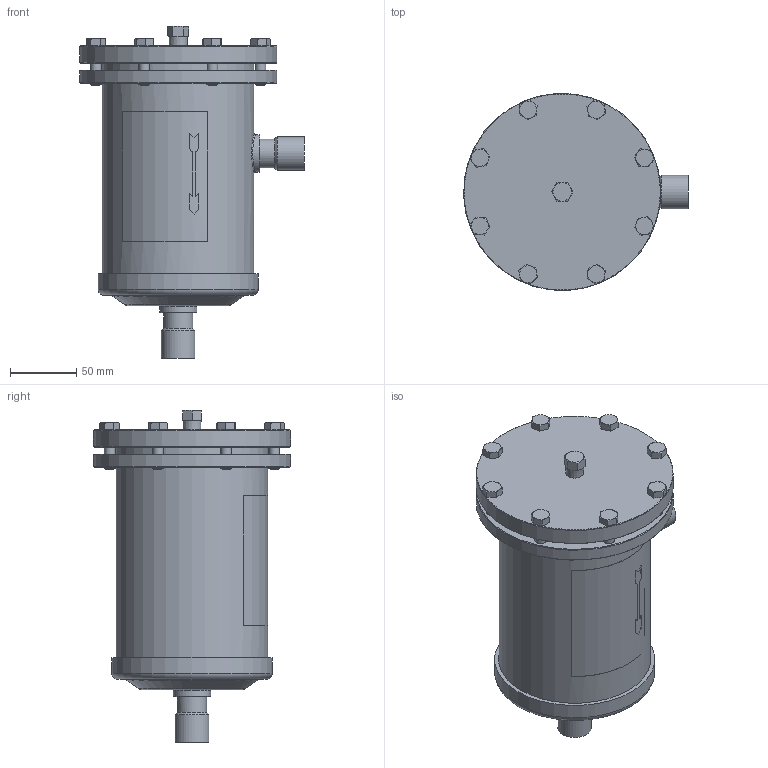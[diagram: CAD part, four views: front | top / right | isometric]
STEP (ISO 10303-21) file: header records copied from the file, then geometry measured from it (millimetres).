
FILE_DESCRIPTION(/* description */ (''),/* implementation_level */ '2;1');
FILE_NAME(/* name */ '4411_7A',/* time_stamp */ '2009-01-08T09:49:40+01:00',/* author */ (''),/* organization */ (''),/* preprocessor_version */ 'ST-DEVELOPER v9',/* originating_system */ 'UGS - NX 4.0',/* authorisation */ '');
FILE_SCHEMA (('CONFIG_CONTROL_DESIGN'));
Length unit declared in the file: millimetre
Products named in the file (1): FColCD0655dk
Bounding box: 169.73 x 148.86 x 250.8 mm (x, y, z)
Volume: 542599.9 mm3; surface area: 239813.3 mm2
Topology: 1 solids, 1 shells, 332 faces, 814 edges, 514 vertices
Faces by surface type: plane 157, cone 105, cylinder 50, torus 15, bspline 5
Full cylindrical faces by diameter (mm): 8 x16, 10 x8, 11.5 x1, 13.716 x1, 19 x2, 22 x2, 22.1 x1, 22.2 x1, 22.4 x2, 25.4 x2, 28.1 x1, 28.2 x1, 105.5 x1, 106 x1, 108.5 x1, 114.5 x1, 115 x1, 115.2 x1, 115.5 x1, 121 x1, 149 x2
Entity records: 9957 total; most frequent: CARTESIAN_POINT 2931, DIRECTION 1390, ORIENTED_EDGE 1308, EDGE_CURVE 654, AXIS2_PLACEMENT_3D 580, EDGE_LOOP 501, VERTEX_POINT 459, ADVANCED_FACE 332
